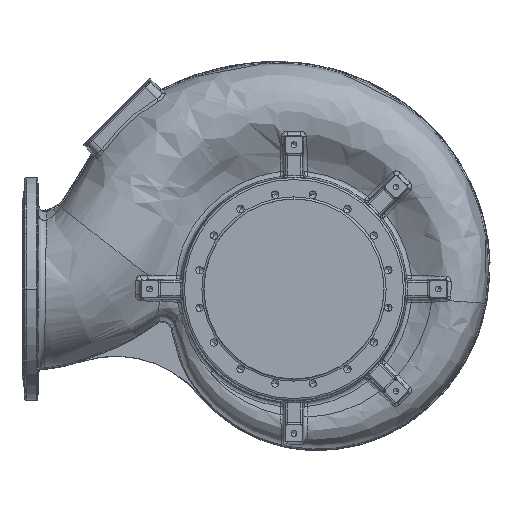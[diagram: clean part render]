
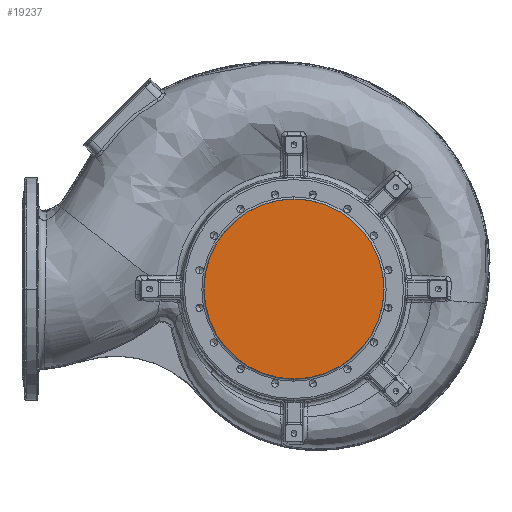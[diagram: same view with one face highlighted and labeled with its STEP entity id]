
A CAD part, front view. The second image highlights one B-rep face of the part: STEP entity #19237.
In plain terms, the highlighted planar face has unit normal (0, -1, 0).
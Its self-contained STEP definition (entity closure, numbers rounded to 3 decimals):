
#3085 = DIRECTION ( 'NONE',  ( 0., 0., 1. ) ) ;
#13960 = CARTESIAN_POINT ( 'NONE',  ( 0., -578., 0. ) ) ;
#19237 = ADVANCED_FACE ( 'NONE', ( #31510 ), #138205, .T. ) ;
#19881 = AXIS2_PLACEMENT_3D ( 'NONE', #13960, #93090, #25338 ) ;
#22718 = ORIENTED_EDGE ( 'NONE', *, *, #113724, .T. ) ;
#25338 = DIRECTION ( 'NONE',  ( 0., 0., 1. ) ) ;
#25459 = CARTESIAN_POINT ( 'NONE',  ( 0., -578., -215. ) ) ;
#31510 = FACE_OUTER_BOUND ( 'NONE', #111786, .T. ) ;
#40168 = CARTESIAN_POINT ( 'NONE',  ( 0., -578., 215. ) ) ;
#48577 = DIRECTION ( 'NONE',  ( 0., -1., 0. ) ) ;
#64057 = VERTEX_POINT ( 'NONE', #40168 ) ;
#65414 = AXIS2_PLACEMENT_3D ( 'NONE', #116268, #48577, #127684 ) ;
#70889 = DIRECTION ( 'NONE',  ( 0., -1., 0. ) ) ;
#80610 = AXIS2_PLACEMENT_3D ( 'NONE', #138688, #70889, #3085 ) ;
#93090 = DIRECTION ( 'NONE',  ( 0., -1., 0. ) ) ;
#96992 = CIRCLE ( 'NONE', #19881, 215. ) ;
#108316 = VERTEX_POINT ( 'NONE', #25459 ) ;
#111786 = EDGE_LOOP ( 'NONE', ( #22718, #140818 ) ) ;
#112828 = CIRCLE ( 'NONE', #65414, 215. ) ;
#113667 = EDGE_CURVE ( 'NONE', #64057, #108316, #96992, .T. ) ;
#113724 = EDGE_CURVE ( 'NONE', #108316, #64057, #112828, .T. ) ;
#116268 = CARTESIAN_POINT ( 'NONE',  ( 0., -578., 0. ) ) ;
#127684 = DIRECTION ( 'NONE',  ( 0., 0., 1. ) ) ;
#138205 = PLANE ( 'NONE',  #80610 ) ;
#138688 = CARTESIAN_POINT ( 'NONE',  ( -215., -578., 0. ) ) ;
#140818 = ORIENTED_EDGE ( 'NONE', *, *, #113667, .T. ) ;
